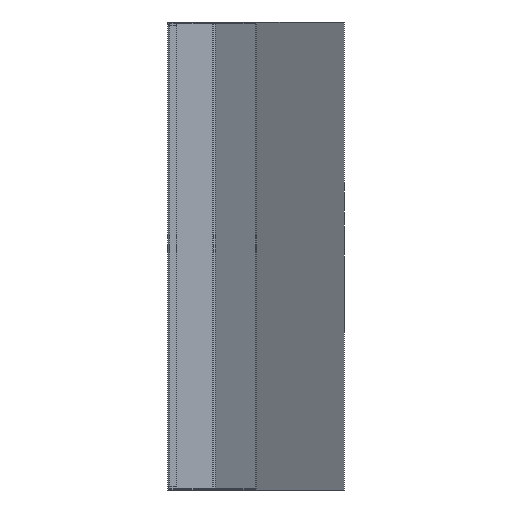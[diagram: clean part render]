
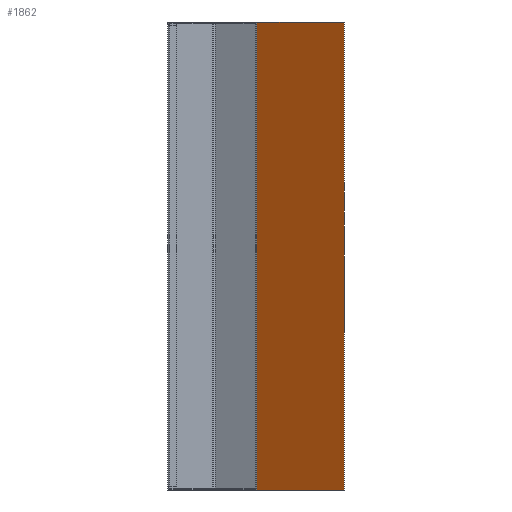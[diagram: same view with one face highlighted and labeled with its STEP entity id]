
A CAD part, left-side view. The second image highlights one B-rep face of the part: STEP entity #1862.
In plain terms, the highlighted planar face has unit normal (-0.076, -0.997, 0).
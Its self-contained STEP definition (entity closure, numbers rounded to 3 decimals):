
#63 = DIRECTION ( 'NONE',  ( 0., 0., -1. ) ) ;
#127 = DIRECTION ( 'NONE',  ( 0.997, -0.076, 0. ) ) ;
#146 = DIRECTION ( 'NONE',  ( 0.076, 0.997, 0. ) ) ;
#166 = CARTESIAN_POINT ( 'NONE',  ( -65.076, 0.006, 134. ) ) ;
#309 = EDGE_CURVE ( 'NONE', #777, #451, #3131, .T. ) ;
#451 = VERTEX_POINT ( 'NONE', #1419 ) ;
#542 = ORIENTED_EDGE ( 'NONE', *, *, #3445, .F. ) ;
#681 = DIRECTION ( 'NONE',  ( 0., 0., -1. ) ) ;
#777 = VERTEX_POINT ( 'NONE', #3915 ) ;
#877 = CARTESIAN_POINT ( 'NONE',  ( -722.962, 49.997, 134. ) ) ;
#1375 = DIRECTION ( 'NONE',  ( -0.997, 0.076, 0. ) ) ;
#1419 = CARTESIAN_POINT ( 'NONE',  ( -65.076, 0.006, -134. ) ) ;
#1641 = EDGE_CURVE ( 'NONE', #2936, #777, #2485, .T. ) ;
#1675 = VECTOR ( 'NONE', #63, 1000. ) ;
#1714 = ORIENTED_EDGE ( 'NONE', *, *, #309, .T. ) ;
#1798 = LINE ( 'NONE', #3021, #3742 ) ;
#1862 = ADVANCED_FACE ( 'NONE', ( #3194 ), #2029, .F. ) ;
#1884 = LINE ( 'NONE', #3111, #1675 ) ;
#2029 = PLANE ( 'NONE',  #3361 ) ;
#2118 = EDGE_LOOP ( 'NONE', ( #1714, #3929, #542, #3806 ) ) ;
#2261 = VECTOR ( 'NONE', #681, 1000. ) ;
#2312 = VECTOR ( 'NONE', #127, 1000. ) ;
#2485 = LINE ( 'NONE', #2772, #2261 ) ;
#2495 = VERTEX_POINT ( 'NONE', #166 ) ;
#2772 = CARTESIAN_POINT ( 'NONE',  ( -722.962, 49.997, 134. ) ) ;
#2785 = DIRECTION ( 'NONE',  ( 0.997, -0.076, 0. ) ) ;
#2936 = VERTEX_POINT ( 'NONE', #877 ) ;
#3021 = CARTESIAN_POINT ( 'NONE',  ( -723., 50., 134. ) ) ;
#3061 = EDGE_CURVE ( 'NONE', #2495, #451, #1884, .T. ) ;
#3111 = CARTESIAN_POINT ( 'NONE',  ( -65.076, 0.006, 134. ) ) ;
#3131 = LINE ( 'NONE', #3477, #2312 ) ;
#3194 = FACE_OUTER_BOUND ( 'NONE', #2118, .T. ) ;
#3252 = CARTESIAN_POINT ( 'NONE',  ( -723., 50., 134. ) ) ;
#3361 = AXIS2_PLACEMENT_3D ( 'NONE', #3252, #146, #1375 ) ;
#3445 = EDGE_CURVE ( 'NONE', #2936, #2495, #1798, .T. ) ;
#3477 = CARTESIAN_POINT ( 'NONE',  ( -723., 50., -134. ) ) ;
#3742 = VECTOR ( 'NONE', #2785, 1000. ) ;
#3806 = ORIENTED_EDGE ( 'NONE', *, *, #1641, .T. ) ;
#3915 = CARTESIAN_POINT ( 'NONE',  ( -722.962, 49.997, -134. ) ) ;
#3929 = ORIENTED_EDGE ( 'NONE', *, *, #3061, .F. ) ;
